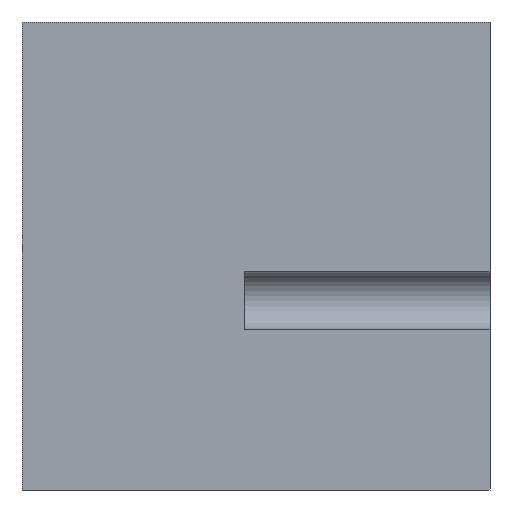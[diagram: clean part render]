
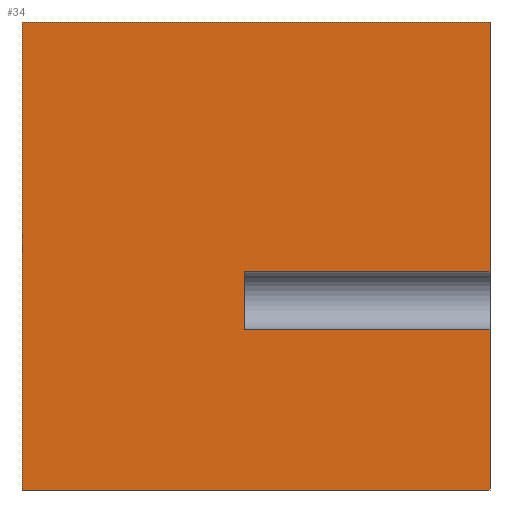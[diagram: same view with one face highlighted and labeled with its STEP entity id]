
A CAD part, front view. The second image highlights one B-rep face of the part: STEP entity #34.
In plain terms, the highlighted planar face has unit normal (0, -1, 0).
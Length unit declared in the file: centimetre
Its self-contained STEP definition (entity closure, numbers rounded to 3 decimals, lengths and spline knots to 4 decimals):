
#31 = PLANE ( 'NONE',  #322 ) ;
#34 = ADVANCED_FACE ( 'NONE', ( #459 ), #31, .F. ) ;
#36 = VERTEX_POINT ( 'NONE', #263 ) ;
#78 = EDGE_CURVE ( 'NONE', #860, #1293, #978, .T. ) ;
#86 = VECTOR ( 'NONE', #971, 100. ) ;
#119 = CARTESIAN_POINT ( 'NONE',  ( 474.812, 0., 466.5508 ) ) ;
#131 = DIRECTION ( 'NONE',  ( 1., 0., 0. ) ) ;
#158 = LINE ( 'NONE', #464, #451 ) ;
#160 = EDGE_LOOP ( 'NONE', ( #629, #1118, #1112, #822, #851, #345, #1006, #1214 ) ) ;
#162 = CARTESIAN_POINT ( 'NONE',  ( 1000., 0., 1000. ) ) ;
#179 = EDGE_CURVE ( 'NONE', #374, #1260, #158, .T. ) ;
#189 = DIRECTION ( 'NONE',  ( 1., 0., 0. ) ) ;
#211 = VECTOR ( 'NONE', #1271, 100. ) ;
#231 = LINE ( 'NONE', #341, #529 ) ;
#238 = VECTOR ( 'NONE', #189, 100. ) ;
#263 = CARTESIAN_POINT ( 'NONE',  ( 0., 0., 1000. ) ) ;
#275 = LINE ( 'NONE', #557, #211 ) ;
#279 = VECTOR ( 'NONE', #485, 100. ) ;
#322 = AXIS2_PLACEMENT_3D ( 'NONE', #865, #1266, #770 ) ;
#335 = EDGE_CURVE ( 'NONE', #1260, #1119, #1107, .T. ) ;
#341 = CARTESIAN_POINT ( 'NONE',  ( 0., 0., 1000. ) ) ;
#345 = ORIENTED_EDGE ( 'NONE', *, *, #1194, .T. ) ;
#347 = CARTESIAN_POINT ( 'NONE',  ( 1000., 0., 466.5508 ) ) ;
#356 = DIRECTION ( 'NONE',  ( 1., 0., 0. ) ) ;
#374 = VERTEX_POINT ( 'NONE', #1136 ) ;
#405 = CARTESIAN_POINT ( 'NONE',  ( 1000., 0., 1000. ) ) ;
#451 = VECTOR ( 'NONE', #356, 100. ) ;
#459 = FACE_OUTER_BOUND ( 'NONE', #160, .T. ) ;
#464 = CARTESIAN_POINT ( 'NONE',  ( 474.812, 0., 342.6398 ) ) ;
#485 = DIRECTION ( 'NONE',  ( 0., 0., -1. ) ) ;
#515 = CARTESIAN_POINT ( 'NONE',  ( 1000., 0., 342.6398 ) ) ;
#529 = VECTOR ( 'NONE', #131, 100. ) ;
#557 = CARTESIAN_POINT ( 'NONE',  ( 0., 0., 1000. ) ) ;
#588 = DIRECTION ( 'NONE',  ( 1., 0., 0. ) ) ;
#610 = LINE ( 'NONE', #797, #279 ) ;
#629 = ORIENTED_EDGE ( 'NONE', *, *, #1148, .F. ) ;
#679 = EDGE_CURVE ( 'NONE', #36, #726, #275, .T. ) ;
#709 = LINE ( 'NONE', #1211, #1129 ) ;
#726 = VERTEX_POINT ( 'NONE', #991 ) ;
#744 = CARTESIAN_POINT ( 'NONE',  ( 1000., 0., 1000. ) ) ;
#770 = DIRECTION ( 'NONE',  ( 0., 0., 1. ) ) ;
#797 = CARTESIAN_POINT ( 'NONE',  ( 474.812, 0., 1000. ) ) ;
#822 = ORIENTED_EDGE ( 'NONE', *, *, #916, .F. ) ;
#835 = DIRECTION ( 'NONE',  ( 0., 0., -1. ) ) ;
#851 = ORIENTED_EDGE ( 'NONE', *, *, #679, .T. ) ;
#860 = VERTEX_POINT ( 'NONE', #119 ) ;
#865 = CARTESIAN_POINT ( 'NONE',  ( 0., 0., 1000. ) ) ;
#916 = EDGE_CURVE ( 'NONE', #36, #921, #231, .T. ) ;
#921 = VERTEX_POINT ( 'NONE', #744 ) ;
#963 = LINE ( 'NONE', #162, #86 ) ;
#971 = DIRECTION ( 'NONE',  ( 0., 0., -1. ) ) ;
#978 = LINE ( 'NONE', #997, #238 ) ;
#991 = CARTESIAN_POINT ( 'NONE',  ( 0., 0., 0. ) ) ;
#997 = CARTESIAN_POINT ( 'NONE',  ( 474.812, 0., 466.5508 ) ) ;
#1006 = ORIENTED_EDGE ( 'NONE', *, *, #335, .F. ) ;
#1031 = VECTOR ( 'NONE', #835, 100. ) ;
#1069 = EDGE_CURVE ( 'NONE', #921, #1293, #963, .T. ) ;
#1086 = CARTESIAN_POINT ( 'NONE',  ( 1000., 0., 0. ) ) ;
#1107 = LINE ( 'NONE', #405, #1031 ) ;
#1112 = ORIENTED_EDGE ( 'NONE', *, *, #1069, .F. ) ;
#1118 = ORIENTED_EDGE ( 'NONE', *, *, #78, .T. ) ;
#1119 = VERTEX_POINT ( 'NONE', #1086 ) ;
#1129 = VECTOR ( 'NONE', #588, 100. ) ;
#1136 = CARTESIAN_POINT ( 'NONE',  ( 474.812, 0., 342.6398 ) ) ;
#1148 = EDGE_CURVE ( 'NONE', #860, #374, #610, .T. ) ;
#1194 = EDGE_CURVE ( 'NONE', #726, #1119, #709, .T. ) ;
#1211 = CARTESIAN_POINT ( 'NONE',  ( 0., 0., 0. ) ) ;
#1214 = ORIENTED_EDGE ( 'NONE', *, *, #179, .F. ) ;
#1260 = VERTEX_POINT ( 'NONE', #515 ) ;
#1266 = DIRECTION ( 'NONE',  ( 0., 1., 0. ) ) ;
#1271 = DIRECTION ( 'NONE',  ( 0., 0., -1. ) ) ;
#1293 = VERTEX_POINT ( 'NONE', #347 ) ;
